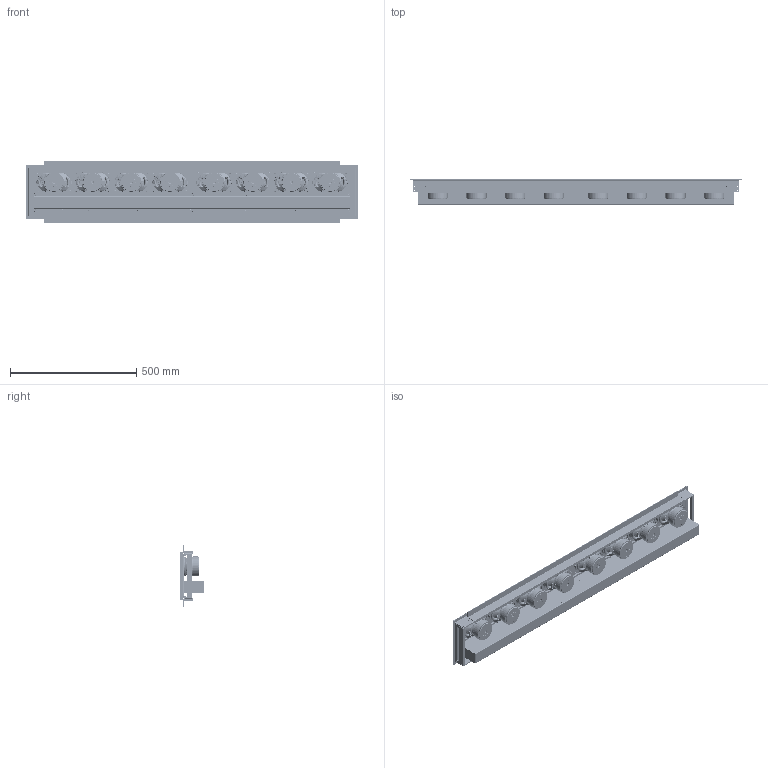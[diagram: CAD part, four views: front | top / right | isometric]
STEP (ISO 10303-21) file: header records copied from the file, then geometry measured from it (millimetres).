
FILE_DESCRIPTION (( 'STEP AP214' ), '1' );
FILE_NAME ('940800 Speaker Insight L8i White.STEP', '2024-10-15T14:54:07', ( '' ), ( '' ), 'SwSTEP 2.0', 'SolidWorks 2024', '' );
FILE_SCHEMA (( 'AUTOMOTIVE_DESIGN' ));
Length unit declared in the file: inch
Products named in the file (13): 380810 RevA Bezel Side Inwall L8i_380810 Bezel Side Inwall L8i; 100140 RevE Plate magnet 24.5 Inch Insight; CMS 6-32 Nut_90631A007; 140800 RevF L8i Baffle; 380800 Bezel Insight L8i Subassembly; 380830 RevB Grill L8i Insight White; 501700 Mid Bass Driver 3x5 Insight; 380610 RevB McGrip P6i-L8i Ext Insight Subassembly_307520; FH-632-8ZI_93580A018; 940800 Speaker Insight L8i White; 141000 RevD end plate insight L8i bezel; 140830 RevE Back Box L8i Insight
Assembly tree (143 placements, depth 3):
  940800 Speaker Insight L8i White
    140800 RevF L8i Baffle
      140800 RevF L8i Baffle
      FH-632-8ZI_93580A018  x62
    140830 RevE Back Box L8i Insight
    100140 RevE Plate magnet 24.5 Inch Insight  x2
    CMS 6-32 Nut_90631A007  x60
    501700 Mid Bass Driver 3x5 Insight  x8
    380800 Bezel Insight L8i Subassembly
      380810 RevA Bezel Side Inwall L8i_380810 Bezel Side Inwall L8i  x2
      141000 RevD end plate insight L8i bezel  x2
    380610 RevB McGrip P6i-L8i Ext Insight Subassembly_307520  x2
    380830 RevB Grill L8i Insight White
Bounding box: 1312.82 x 98.76 x 247.29 mm (x, y, z)
Volume: 3706115.4 mm3; surface area: 3939782.5 mm2
Topology: 345 solids, 345 shells, 24115 faces, 63139 edges, 40028 vertices
Faces by surface type: plane 9886, cylinder 8059, cone 3988, bspline 1250, torus 796, sphere 136
Entity records: 130195 total; most frequent: CARTESIAN_POINT 41478, DIRECTION 18262, ORIENTED_EDGE 18144, EDGE_CURVE 9072, AXIS2_PLACEMENT_3D 6523, VERTEX_POINT 5823, LINE 5216, VECTOR 5216
